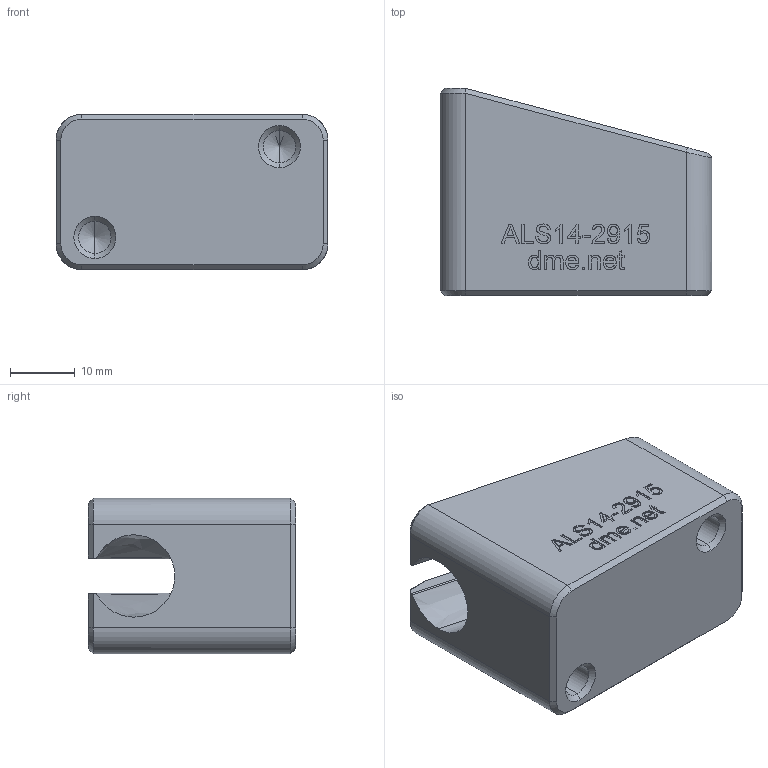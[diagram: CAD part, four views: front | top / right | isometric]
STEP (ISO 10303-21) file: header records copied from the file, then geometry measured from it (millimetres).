
FILE_DESCRIPTION (( 'STEP AP203' ), '1' );
FILE_NAME ('ALS14-2915.STEP', '2021-01-10T21:49:38', ( '' ), ( '' ), 'SwSTEP 2.0', 'SolidWorks 2020', '' );
FILE_SCHEMA (( 'CONFIG_CONTROL_DESIGN' ));
Length unit declared in the file: millimetre
Products named in the file (1): ALS14-2915
Bounding box: 42 x 32 x 24 mm (x, y, z)
Volume: 21030.4 mm3; surface area: 6790.9 mm2
Topology: 1 solids, 1 shells, 278 faces, 733 edges, 478 vertices
Faces by surface type: plane 149, bspline 101, cone 14, cylinder 14
Entity records: 13968 total; most frequent: CARTESIAN_POINT 7763, ORIENTED_EDGE 1458, DIRECTION 891, EDGE_CURVE 729, VECTOR 487, LINE 487, VERTEX_POINT 478, EDGE_LOOP 303
